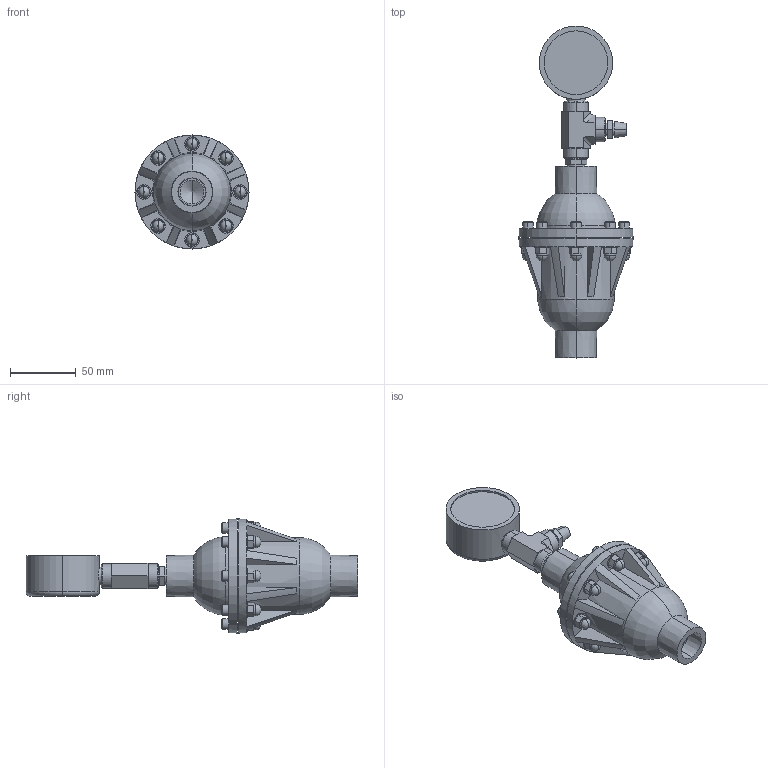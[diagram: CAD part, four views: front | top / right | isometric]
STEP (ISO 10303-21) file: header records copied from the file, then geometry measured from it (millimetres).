
FILE_DESCRIPTION (( 'STEP AP203' ), '1' );
FILE_NAME ('PD0012.STEP', '2016-01-06T10:17:10', ( '' ), ( '' ), 'SwSTEP 2.0', 'SolidWorks 2014', '' );
FILE_SCHEMA (( 'CONFIG_CONTROL_DESIGN' ));
Length unit declared in the file: inch
Products named in the file (2): PD0012
Bounding box: 86.49 x 251.71 x 86.49 mm (x, y, z)
Volume: 426892 mm3; surface area: 62375.7 mm2
Topology: 1 solids, 1 shells, 381 faces, 863 edges, 551 vertices
Faces by surface type: plane 215, cylinder 92, cone 52, torus 22
Entity records: 10905 total; most frequent: CARTESIAN_POINT 1998, DIRECTION 1895, ORIENTED_EDGE 1722, EDGE_CURVE 861, AXIS2_PLACEMENT_3D 691, VERTEX_POINT 551, VECTOR 513, LINE 513
